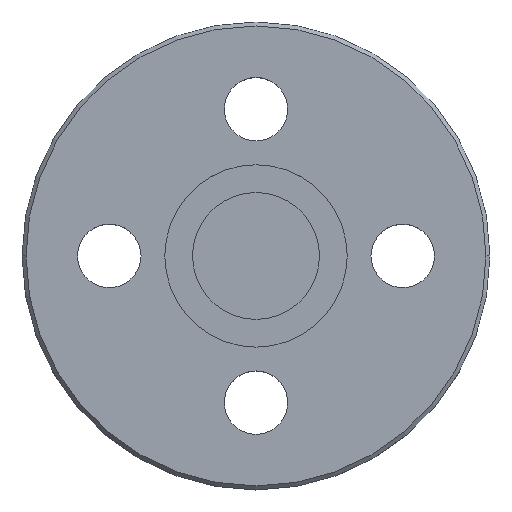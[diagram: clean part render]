
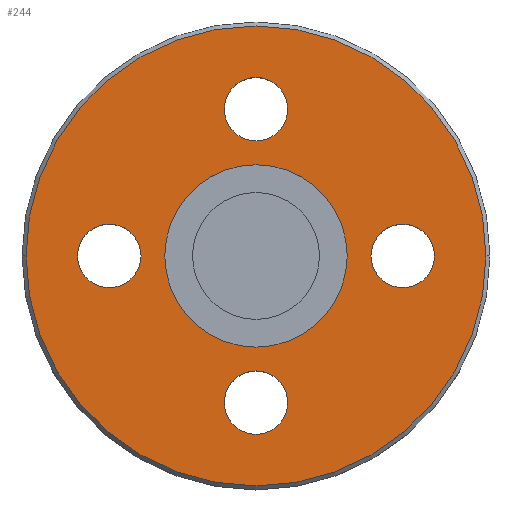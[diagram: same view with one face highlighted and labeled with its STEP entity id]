
A CAD part, top view. The second image highlights one B-rep face of the part: STEP entity #244.
In plain terms, the highlighted planar face has unit normal (0, 0, 1).
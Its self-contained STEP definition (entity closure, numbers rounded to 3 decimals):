
#2 = AXIS2_PLACEMENT_3D ( 'NONE', #168, #457, #505 ) ;
#7 = DIRECTION ( 'NONE',  ( 0., 0., 1. ) ) ;
#13 = EDGE_CURVE ( 'NONE', #50, #474, #487, .T. ) ;
#17 = EDGE_LOOP ( 'NONE', ( #276, #587 ) ) ;
#25 = DIRECTION ( 'NONE',  ( 0., 0., 1. ) ) ;
#33 = DIRECTION ( 'NONE',  ( 0., 1., 0. ) ) ;
#36 = AXIS2_PLACEMENT_3D ( 'NONE', #366, #352, #639 ) ;
#40 = AXIS2_PLACEMENT_3D ( 'NONE', #712, #52, #33 ) ;
#42 = CIRCLE ( 'NONE', #2, 4. ) ;
#49 = CARTESIAN_POINT ( 'NONE',  ( 18.5, 0., 10. ) ) ;
#50 = VERTEX_POINT ( 'NONE', #68 ) ;
#52 = DIRECTION ( 'NONE',  ( 0., 0., 1. ) ) ;
#54 = CARTESIAN_POINT ( 'NONE',  ( 0., 0., 10. ) ) ;
#55 = CARTESIAN_POINT ( 'NONE',  ( -4., 18.5, 10. ) ) ;
#65 = DIRECTION ( 'NONE',  ( 1., 0., 0. ) ) ;
#68 = CARTESIAN_POINT ( 'NONE',  ( -18.5, -4., 10. ) ) ;
#69 = EDGE_CURVE ( 'NONE', #212, #137, #42, .T. ) ;
#75 = AXIS2_PLACEMENT_3D ( 'NONE', #719, #463, #341 ) ;
#79 = EDGE_CURVE ( 'NONE', #137, #212, #199, .T. ) ;
#85 = FACE_OUTER_BOUND ( 'NONE', #482, .T. ) ;
#88 = PLANE ( 'NONE',  #198 ) ;
#94 = CIRCLE ( 'NONE', #610, 4. ) ;
#98 = DIRECTION ( 'NONE',  ( -1., 0., 0. ) ) ;
#101 = CARTESIAN_POINT ( 'NONE',  ( 18.5, -4., 10. ) ) ;
#113 = CARTESIAN_POINT ( 'NONE',  ( 29., 0., 10. ) ) ;
#117 = ORIENTED_EDGE ( 'NONE', *, *, #473, .F. ) ;
#127 = VERTEX_POINT ( 'NONE', #290 ) ;
#133 = DIRECTION ( 'NONE',  ( 0., -1., 0. ) ) ;
#137 = VERTEX_POINT ( 'NONE', #55 ) ;
#153 = AXIS2_PLACEMENT_3D ( 'NONE', #460, #225, #444 ) ;
#158 = VERTEX_POINT ( 'NONE', #507 ) ;
#168 = CARTESIAN_POINT ( 'NONE',  ( 0., 18.5, 10. ) ) ;
#173 = VERTEX_POINT ( 'NONE', #631 ) ;
#194 = FACE_BOUND ( 'NONE', #660, .T. ) ;
#198 = AXIS2_PLACEMENT_3D ( 'NONE', #363, #423, #590 ) ;
#199 = CIRCLE ( 'NONE', #243, 4. ) ;
#201 = VERTEX_POINT ( 'NONE', #335 ) ;
#203 = FACE_BOUND ( 'NONE', #17, .T. ) ;
#212 = VERTEX_POINT ( 'NONE', #411 ) ;
#221 = CIRCLE ( 'NONE', #309, 4. ) ;
#225 = DIRECTION ( 'NONE',  ( 0., 0., 1. ) ) ;
#236 = EDGE_LOOP ( 'NONE', ( #611, #365 ) ) ;
#241 = AXIS2_PLACEMENT_3D ( 'NONE', #488, #550, #375 ) ;
#243 = AXIS2_PLACEMENT_3D ( 'NONE', #676, #7, #65 ) ;
#244 = ADVANCED_FACE ( 'NONE', ( #469, #649, #194, #203, #594, #85 ), #88, .F. ) ;
#262 = VERTEX_POINT ( 'NONE', #693 ) ;
#276 = ORIENTED_EDGE ( 'NONE', *, *, #69, .F. ) ;
#282 = CIRCLE ( 'NONE', #241, 4. ) ;
#290 = CARTESIAN_POINT ( 'NONE',  ( -11.5, 0., 10. ) ) ;
#300 = CIRCLE ( 'NONE', #36, 29. ) ;
#309 = AXIS2_PLACEMENT_3D ( 'NONE', #720, #718, #98 ) ;
#335 = CARTESIAN_POINT ( 'NONE',  ( 18.5, 4., 10. ) ) ;
#341 = DIRECTION ( 'NONE',  ( 0., 1., 0. ) ) ;
#352 = DIRECTION ( 'NONE',  ( 0., 0., 1. ) ) ;
#355 = AXIS2_PLACEMENT_3D ( 'NONE', #592, #25, #133 ) ;
#358 = EDGE_CURVE ( 'NONE', #173, #158, #282, .T. ) ;
#363 = CARTESIAN_POINT ( 'NONE',  ( 0., 29., 10. ) ) ;
#365 = ORIENTED_EDGE ( 'NONE', *, *, #479, .F. ) ;
#366 = CARTESIAN_POINT ( 'NONE',  ( 0., 0., 10. ) ) ;
#371 = DIRECTION ( 'NONE',  ( 0., 0., 1. ) ) ;
#372 = EDGE_CURVE ( 'NONE', #474, #50, #616, .T. ) ;
#375 = DIRECTION ( 'NONE',  ( -1., 0., 0. ) ) ;
#377 = CIRCLE ( 'NONE', #434, 11.5 ) ;
#385 = ORIENTED_EDGE ( 'NONE', *, *, #372, .F. ) ;
#411 = CARTESIAN_POINT ( 'NONE',  ( 4., 18.5, 10. ) ) ;
#423 = DIRECTION ( 'NONE',  ( 0., 0., -1. ) ) ;
#434 = AXIS2_PLACEMENT_3D ( 'NONE', #54, #506, #573 ) ;
#439 = ORIENTED_EDGE ( 'NONE', *, *, #580, .T. ) ;
#444 = DIRECTION ( 'NONE',  ( 1., 0., 0. ) ) ;
#455 = VERTEX_POINT ( 'NONE', #101 ) ;
#457 = DIRECTION ( 'NONE',  ( 0., 0., 1. ) ) ;
#458 = EDGE_CURVE ( 'NONE', #201, #455, #94, .T. ) ;
#460 = CARTESIAN_POINT ( 'NONE',  ( 0., 0., 10. ) ) ;
#463 = DIRECTION ( 'NONE',  ( 0., 0., 1. ) ) ;
#464 = ORIENTED_EDGE ( 'NONE', *, *, #568, .F. ) ;
#469 = FACE_BOUND ( 'NONE', #726, .T. ) ;
#473 = EDGE_CURVE ( 'NONE', #127, #683, #694, .T. ) ;
#474 = VERTEX_POINT ( 'NONE', #499 ) ;
#479 = EDGE_CURVE ( 'NONE', #158, #173, #221, .T. ) ;
#480 = AXIS2_PLACEMENT_3D ( 'NONE', #659, #491, #484 ) ;
#482 = EDGE_LOOP ( 'NONE', ( #439, #533 ) ) ;
#484 = DIRECTION ( 'NONE',  ( 1., 0., 0. ) ) ;
#487 = CIRCLE ( 'NONE', #75, 4. ) ;
#488 = CARTESIAN_POINT ( 'NONE',  ( 0., -18.5, 10. ) ) ;
#491 = DIRECTION ( 'NONE',  ( 0., 0., 1. ) ) ;
#496 = DIRECTION ( 'NONE',  ( 0., -1., 0. ) ) ;
#499 = CARTESIAN_POINT ( 'NONE',  ( -18.5, 4., 10. ) ) ;
#505 = DIRECTION ( 'NONE',  ( 1., 0., 0. ) ) ;
#506 = DIRECTION ( 'NONE',  ( 0., 0., 1. ) ) ;
#507 = CARTESIAN_POINT ( 'NONE',  ( 4., -18.5, 10. ) ) ;
#514 = CIRCLE ( 'NONE', #153, 29. ) ;
#521 = ORIENTED_EDGE ( 'NONE', *, *, #664, .F. ) ;
#522 = CARTESIAN_POINT ( 'NONE',  ( 11.5, 0., 10. ) ) ;
#533 = ORIENTED_EDGE ( 'NONE', *, *, #685, .T. ) ;
#540 = ORIENTED_EDGE ( 'NONE', *, *, #13, .F. ) ;
#550 = DIRECTION ( 'NONE',  ( 0., 0., 1. ) ) ;
#568 = EDGE_CURVE ( 'NONE', #683, #127, #377, .T. ) ;
#573 = DIRECTION ( 'NONE',  ( 1., 0., 0. ) ) ;
#580 = EDGE_CURVE ( 'NONE', #262, #584, #514, .T. ) ;
#584 = VERTEX_POINT ( 'NONE', #113 ) ;
#587 = ORIENTED_EDGE ( 'NONE', *, *, #79, .F. ) ;
#590 = DIRECTION ( 'NONE',  ( -1., 0., 0. ) ) ;
#592 = CARTESIAN_POINT ( 'NONE',  ( 18.5, 0., 10. ) ) ;
#594 = FACE_BOUND ( 'NONE', #629, .T. ) ;
#596 = ORIENTED_EDGE ( 'NONE', *, *, #458, .F. ) ;
#610 = AXIS2_PLACEMENT_3D ( 'NONE', #49, #371, #496 ) ;
#611 = ORIENTED_EDGE ( 'NONE', *, *, #358, .F. ) ;
#616 = CIRCLE ( 'NONE', #40, 4. ) ;
#629 = EDGE_LOOP ( 'NONE', ( #464, #117 ) ) ;
#631 = CARTESIAN_POINT ( 'NONE',  ( -4., -18.5, 10. ) ) ;
#639 = DIRECTION ( 'NONE',  ( 1., 0., 0. ) ) ;
#649 = FACE_BOUND ( 'NONE', #236, .T. ) ;
#659 = CARTESIAN_POINT ( 'NONE',  ( 0., 0., 10. ) ) ;
#660 = EDGE_LOOP ( 'NONE', ( #521, #596 ) ) ;
#664 = EDGE_CURVE ( 'NONE', #455, #201, #710, .T. ) ;
#676 = CARTESIAN_POINT ( 'NONE',  ( 0., 18.5, 10. ) ) ;
#683 = VERTEX_POINT ( 'NONE', #522 ) ;
#685 = EDGE_CURVE ( 'NONE', #584, #262, #300, .T. ) ;
#693 = CARTESIAN_POINT ( 'NONE',  ( -29., 0., 10. ) ) ;
#694 = CIRCLE ( 'NONE', #480, 11.5 ) ;
#710 = CIRCLE ( 'NONE', #355, 4. ) ;
#712 = CARTESIAN_POINT ( 'NONE',  ( -18.5, 0., 10. ) ) ;
#718 = DIRECTION ( 'NONE',  ( 0., 0., 1. ) ) ;
#719 = CARTESIAN_POINT ( 'NONE',  ( -18.5, 0., 10. ) ) ;
#720 = CARTESIAN_POINT ( 'NONE',  ( 0., -18.5, 10. ) ) ;
#726 = EDGE_LOOP ( 'NONE', ( #385, #540 ) ) ;
